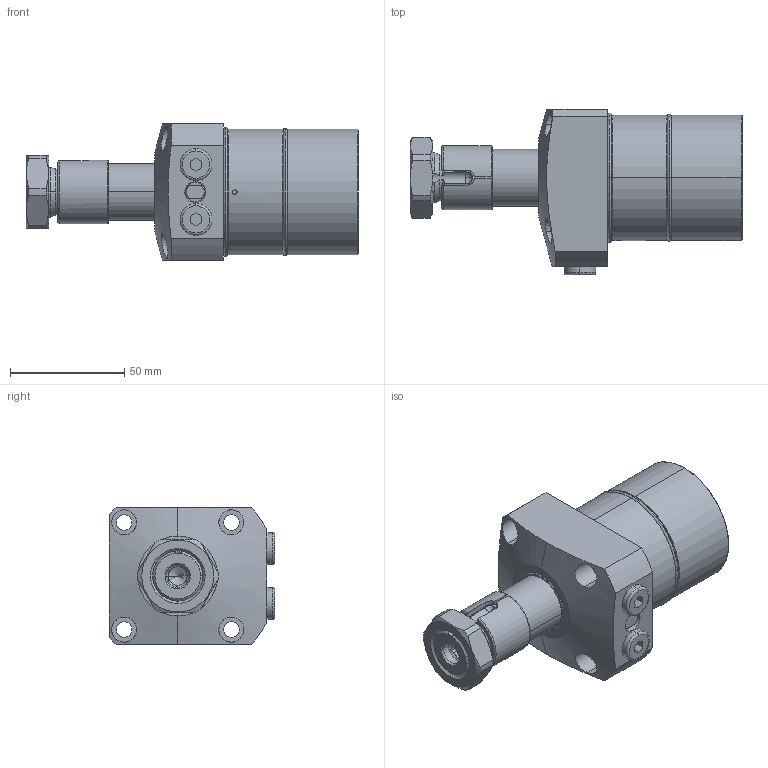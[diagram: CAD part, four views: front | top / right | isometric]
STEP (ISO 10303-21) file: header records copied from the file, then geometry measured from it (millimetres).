
FILE_DESCRIPTION(/* description */ (''),/* implementation_level */ '2;1');
FILE_NAME(/* name */ 'KTRW55-RJ.stp',/* time_stamp */ '2022-11-18T13:27:33+08:00',/* author */ (''),/* organization */ (''),/* preprocessor_version */ 'ST-DEVELOPER v16.7',/* originating_system */ 'SIEMENS PLM Software NX 12.0',/* authorisation */ '');
FILE_SCHEMA (('AP203_CONFIGURATION_CONTROLLED_3D_DESIGN_OF_MECHANICAL_PARTS_AND_ASSEMBLIES_MIM_LF { 1 0 10303 403 2 1 2}'));
Length unit declared in the file: millimetre
Products named in the file (7): KTRW55-RJ-01; KTRW55-RJ-02; KTRW55-RJ-03; KTRW55-RJ-05; KTRW55-RJ-06; KTRW55-RJ-04; LHW0551-CLJ_step
Assembly tree (9 placements, depth 2):
  LHW0551-CLJ_step
    KTRW55-RJ-04
    KTRW55-RJ-06  x2
    KTRW55-RJ-05  x3
    KTRW55-RJ-03
    KTRW55-RJ-02
    KTRW55-RJ-01
Bounding box: 145.5 x 72.5 x 60 mm (x, y, z)
Volume: 270372.1 mm3; surface area: 46217.2 mm2
Topology: 11 solids, 11 shells, 346 faces, 777 edges, 476 vertices
Faces by surface type: cylinder 101, plane 101, torus 75, cone 67, sphere 2
Entity records: 9255 total; most frequent: CARTESIAN_POINT 1948, DIRECTION 1452, ORIENTED_EDGE 1266, EDGE_CURVE 633, AXIS2_PLACEMENT_3D 612, VERTEX_POINT 392, CIRCLE 324, EDGE_LOOP 315
